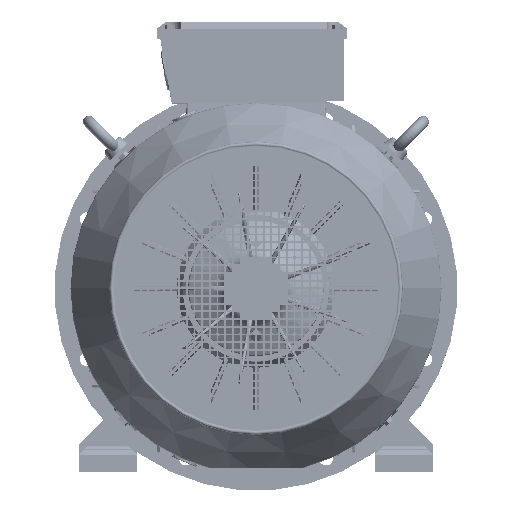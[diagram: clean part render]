
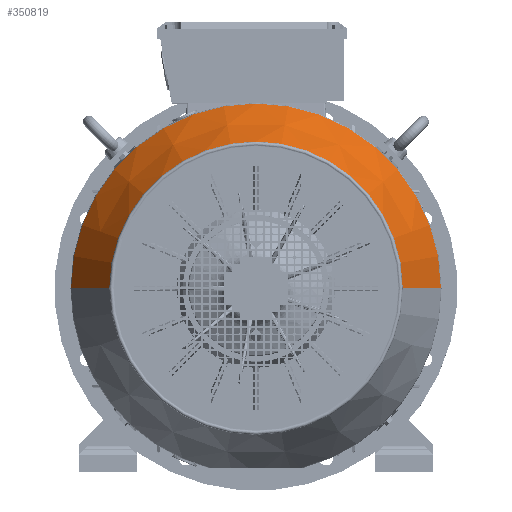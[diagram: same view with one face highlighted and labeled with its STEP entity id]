
A CAD part, top view. The second image highlights one B-rep face of the part: STEP entity #350819.
In plain terms, the highlighted conical face has half-angle 28.793 degrees and reference radius 200.371 mm.
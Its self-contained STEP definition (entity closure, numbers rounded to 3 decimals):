
#9673 = CARTESIAN_POINT ( 'NONE',  ( -216.199, -6.231, 316.775 ) ) ;
#13815 = VECTOR ( 'NONE', #244057, 1000. ) ;
#31431 = CIRCLE ( 'NONE', #42897, 200.371 ) ;
#42897 = AXIS2_PLACEMENT_3D ( 'NONE', #152814, #93909, #286825 ) ;
#46527 = DIRECTION ( 'NONE',  ( 0., 0., -1. ) ) ;
#48704 = VECTOR ( 'NONE', #81109, 1000. ) ;
#52777 = DIRECTION ( 'NONE',  ( -1., 0., 0. ) ) ;
#57522 = EDGE_CURVE ( 'NONE', #68051, #98448, #166785, .T. ) ;
#68051 = VERTEX_POINT ( 'NONE', #113219 ) ;
#77227 = ORIENTED_EDGE ( 'NONE', *, *, #247092, .T. ) ;
#81109 = DIRECTION ( 'NONE',  ( -0.482, 0., -0.876 ) ) ;
#93909 = DIRECTION ( 'NONE',  ( 0., 0., -1. ) ) ;
#94405 = EDGE_LOOP ( 'NONE', ( #207427, #77227, #212571, #187643 ) ) ;
#98448 = VERTEX_POINT ( 'NONE', #9673 ) ;
#102636 = AXIS2_PLACEMENT_3D ( 'NONE', #265423, #297526, #52777 ) ;
#109317 = CIRCLE ( 'NONE', #337548, 252.335 ) ;
#113219 = CARTESIAN_POINT ( 'NONE',  ( -164.235, -6.231, 411.325 ) ) ;
#114664 = EDGE_CURVE ( 'NONE', #98448, #197180, #109317, .T. ) ;
#125356 = VERTEX_POINT ( 'NONE', #239932 ) ;
#152814 = CARTESIAN_POINT ( 'NONE',  ( 36.135, -6.231, 411.325 ) ) ;
#155486 = DIRECTION ( 'NONE',  ( -1., 0., 0. ) ) ;
#166785 = LINE ( 'NONE', #275767, #48704 ) ;
#187643 = ORIENTED_EDGE ( 'NONE', *, *, #57522, .F. ) ;
#188596 = FACE_OUTER_BOUND ( 'NONE', #94405, .T. ) ;
#188723 = CARTESIAN_POINT ( 'NONE',  ( 236.506, -6.231, 411.325 ) ) ;
#197180 = VERTEX_POINT ( 'NONE', #330923 ) ;
#207427 = ORIENTED_EDGE ( 'NONE', *, *, #296145, .T. ) ;
#212571 = ORIENTED_EDGE ( 'NONE', *, *, #114664, .F. ) ;
#239932 = CARTESIAN_POINT ( 'NONE',  ( 236.506, -6.231, 411.325 ) ) ;
#244057 = DIRECTION ( 'NONE',  ( 0.482, 0., -0.876 ) ) ;
#247092 = EDGE_CURVE ( 'NONE', #125356, #197180, #299398, .T. ) ;
#265423 = CARTESIAN_POINT ( 'NONE',  ( 36.135, -6.231, 411.325 ) ) ;
#275767 = CARTESIAN_POINT ( 'NONE',  ( -164.235, -6.231, 411.325 ) ) ;
#286825 = DIRECTION ( 'NONE',  ( -1., 0., 0. ) ) ;
#296145 = EDGE_CURVE ( 'NONE', #68051, #125356, #31431, .T. ) ;
#297526 = DIRECTION ( 'NONE',  ( 0., 0., -1. ) ) ;
#299398 = LINE ( 'NONE', #188723, #13815 ) ;
#318091 = CARTESIAN_POINT ( 'NONE',  ( 36.135, -6.231, 316.775 ) ) ;
#330900 = CONICAL_SURFACE ( 'NONE', #102636, 200.371, 0.503 ) ;
#330923 = CARTESIAN_POINT ( 'NONE',  ( 288.47, -6.231, 316.775 ) ) ;
#337548 = AXIS2_PLACEMENT_3D ( 'NONE', #318091, #46527, #155486 ) ;
#350819 = ADVANCED_FACE ( 'NONE', ( #188596 ), #330900, .T. ) ;
